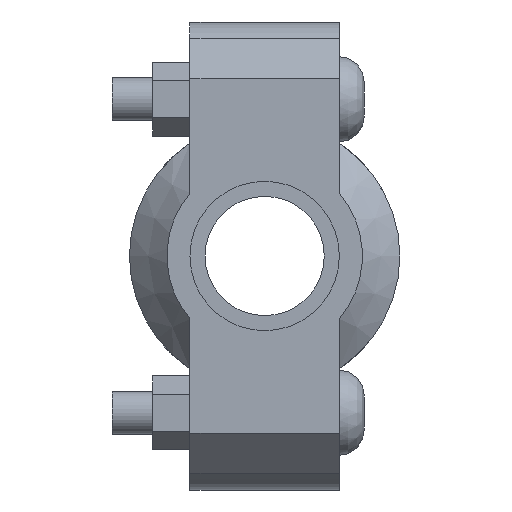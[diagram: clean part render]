
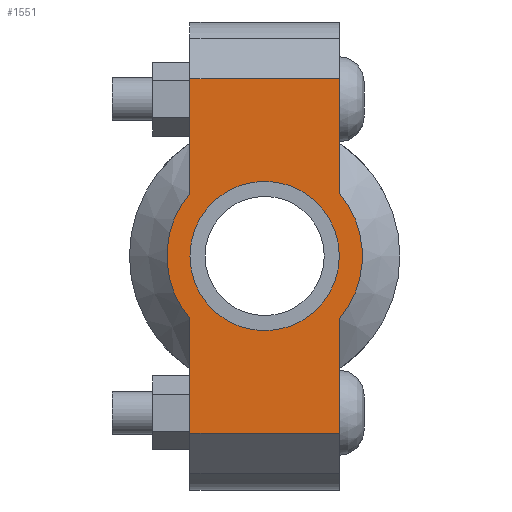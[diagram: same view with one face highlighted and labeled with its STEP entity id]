
A CAD part, left-side view. The second image highlights one B-rep face of the part: STEP entity #1551.
In plain terms, the highlighted planar face has unit normal (-1, 0, 0) as drawn and (0, 0, 1) by its records, which use the part's own axes.
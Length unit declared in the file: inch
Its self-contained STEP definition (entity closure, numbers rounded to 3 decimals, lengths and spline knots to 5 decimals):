
#162=LINE('',#2665,#257);
#177=LINE('',#2724,#272);
#185=LINE('',#2754,#280);
#187=LINE('',#2757,#282);
#188=LINE('',#2762,#283);
#189=LINE('',#2763,#284);
#257=VECTOR('',#2151,0.3937);
#272=VECTOR('',#2186,0.3937);
#280=VECTOR('',#2206,0.3937);
#282=VECTOR('',#2210,0.3937);
#283=VECTOR('',#2215,0.3937);
#284=VECTOR('',#2216,0.3937);
#344=FACE_BOUND('',#503,.T.);
#404=FACE_OUTER_BOUND('',#502,.T.);
#502=EDGE_LOOP('',(#1246,#1247,#1248,#1249,#1250,#1251,#1252,#1253));
#503=EDGE_LOOP('',(#1254));
#608=CIRCLE('',#1814,0.86);
#609=CIRCLE('',#1815,0.86);
#610=CIRCLE('',#1816,0.6575);
#717=VERTEX_POINT('',#2662);
#718=VERTEX_POINT('',#2664);
#739=VERTEX_POINT('',#2719);
#740=VERTEX_POINT('',#2723);
#749=VERTEX_POINT('',#2749);
#750=VERTEX_POINT('',#2753);
#751=VERTEX_POINT('',#2759);
#752=VERTEX_POINT('',#2761);
#753=VERTEX_POINT('',#2765);
#887=EDGE_CURVE('',#718,#717,#162,.T.);
#912=EDGE_CURVE('',#740,#739,#177,.T.);
#925=EDGE_CURVE('',#750,#749,#185,.T.);
#927=EDGE_CURVE('',#750,#717,#187,.T.);
#928=EDGE_CURVE('',#749,#751,#608,.T.);
#929=EDGE_CURVE('',#751,#752,#188,.T.);
#930=EDGE_CURVE('',#740,#752,#189,.T.);
#931=EDGE_CURVE('',#739,#718,#609,.T.);
#932=EDGE_CURVE('',#753,#753,#610,.T.);
#1246=ORIENTED_EDGE('',*,*,#927,.F.);
#1247=ORIENTED_EDGE('',*,*,#925,.T.);
#1248=ORIENTED_EDGE('',*,*,#928,.T.);
#1249=ORIENTED_EDGE('',*,*,#929,.T.);
#1250=ORIENTED_EDGE('',*,*,#930,.F.);
#1251=ORIENTED_EDGE('',*,*,#912,.T.);
#1252=ORIENTED_EDGE('',*,*,#931,.T.);
#1253=ORIENTED_EDGE('',*,*,#887,.T.);
#1254=ORIENTED_EDGE('',*,*,#932,.T.);
#1403=PLANE('',#1813);
#1551=ADVANCED_FACE('',(#404,#344),#1403,.T.);
#1813=AXIS2_PLACEMENT_3D('',#2758,#2211,#2212);
#1814=AXIS2_PLACEMENT_3D('',#2760,#2213,#2214);
#1815=AXIS2_PLACEMENT_3D('',#2764,#2217,#2218);
#1816=AXIS2_PLACEMENT_3D('',#2766,#2219,#2220);
#2151=DIRECTION('',(1.,0.,0.));
#2186=DIRECTION('',(1.,0.,0.));
#2206=DIRECTION('',(-1.,0.,0.));
#2210=DIRECTION('',(0.,-1.,0.));
#2211=DIRECTION('center_axis',(0.,0.,1.));
#2212=DIRECTION('ref_axis',(-1.,0.,0.));
#2213=DIRECTION('center_axis',(0.,0.,1.));
#2214=DIRECTION('ref_axis',(1.,0.,0.));
#2215=DIRECTION('',(-1.,0.,0.));
#2216=DIRECTION('',(0.,1.,0.));
#2217=DIRECTION('center_axis',(0.,0.,1.));
#2218=DIRECTION('ref_axis',(1.,0.,0.));
#2219=DIRECTION('center_axis',(0.,0.,-1.));
#2220=DIRECTION('ref_axis',(1.,0.,0.));
#2662=CARTESIAN_POINT('',(1.56,-0.6575,0.875));
#2664=CARTESIAN_POINT('',(0.55434,-0.6575,0.875));
#2665=CARTESIAN_POINT('',(-2.06,-0.6575,0.875));
#2719=CARTESIAN_POINT('',(-0.55434,-0.6575,0.875));
#2723=CARTESIAN_POINT('',(-1.56,-0.6575,0.875));
#2724=CARTESIAN_POINT('',(-2.06,-0.6575,0.875));
#2749=CARTESIAN_POINT('',(0.55434,0.6575,0.875));
#2753=CARTESIAN_POINT('',(1.56,0.6575,0.875));
#2754=CARTESIAN_POINT('',(2.06,0.6575,0.875));
#2757=CARTESIAN_POINT('',(1.56,-0.32875,0.875));
#2758=CARTESIAN_POINT('Origin',(0.,0.,
0.875));
#2759=CARTESIAN_POINT('',(-0.55434,0.6575,0.875));
#2760=CARTESIAN_POINT('Origin',(0.,0.,0.875));
#2761=CARTESIAN_POINT('',(-1.56,0.6575,0.875));
#2762=CARTESIAN_POINT('',(2.06,0.6575,0.875));
#2763=CARTESIAN_POINT('',(-1.56,0.32875,0.875));
#2764=CARTESIAN_POINT('Origin',(0.,0.,0.875));
#2765=CARTESIAN_POINT('',(-0.6575,0.,0.875));
#2766=CARTESIAN_POINT('Origin',(0.,0.,0.875));
